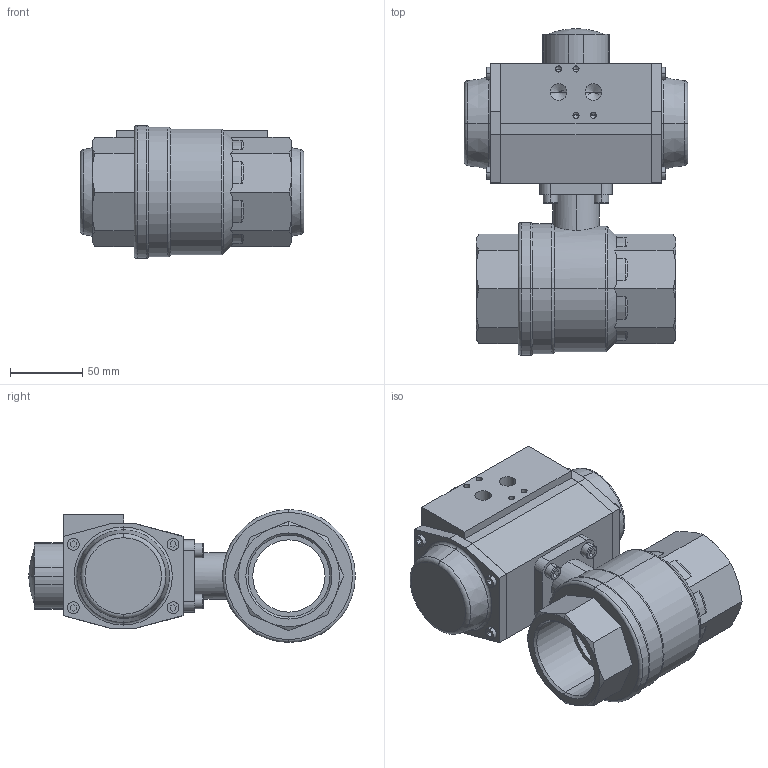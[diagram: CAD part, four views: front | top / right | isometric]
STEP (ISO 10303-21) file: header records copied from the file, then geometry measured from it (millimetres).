
FILE_DESCRIPTION (( 'STEP AP214' ), '1' );
FILE_NAME ('A25-DN50-G2+AP2.step', '2011-03-03T09:49:05', ( '' ), ( '' ), 'SwSTEP 2.0', 'SolidWorks 2011', '' );
FILE_SCHEMA (( 'AUTOMOTIVE_DESIGN' ));
Length unit declared in the file: millimetre
Products named in the file (4): DIN 912 M6 x 20 --- 20N_DIN 912 M6 x 20 --- 20N; AP2_Default<As Machined>; Ballvalve A25-DN50 G2; A25-DN50-G2+AP2
Assembly tree (6 placements, depth 2):
  A25-DN50-G2+AP2
    DIN 912 M6 x 20 --- 20N_DIN 912 M6 x 20 --- 20N  x4
    AP2_Default<As Machined>
    Ballvalve A25-DN50 G2
Bounding box: 155 x 226.24 x 92 mm (x, y, z)
Volume: 1275731.5 mm3; surface area: 148444.1 mm2
Topology: 9 solids, 9 shells, 449 faces, 1065 edges, 649 vertices
Faces by surface type: plane 228, cylinder 107, cone 72, torus 40, sphere 2
Entity records: 12155 total; most frequent: CARTESIAN_POINT 2428, DIRECTION 1830, ORIENTED_EDGE 1722, EDGE_CURVE 861, AXIS2_PLACEMENT_3D 652, VERTEX_POINT 550, VECTOR 526, LINE 526
